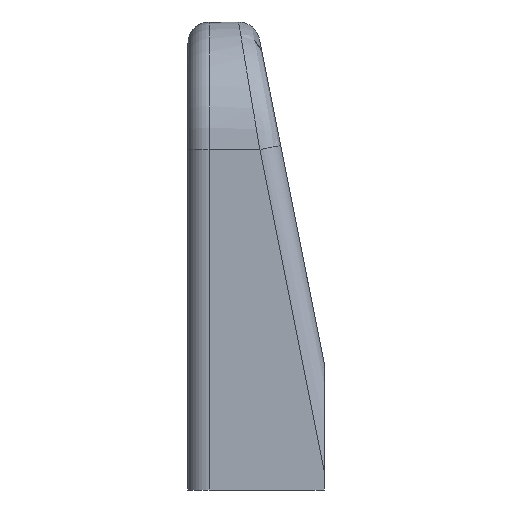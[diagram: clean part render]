
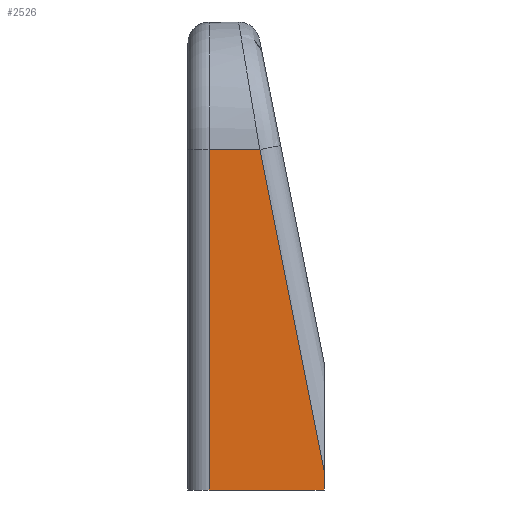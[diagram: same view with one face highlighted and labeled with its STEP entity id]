
A CAD part, left-side view. The second image highlights one B-rep face of the part: STEP entity #2526.
In plain terms, the highlighted planar face has unit normal (-1, 0, 0).
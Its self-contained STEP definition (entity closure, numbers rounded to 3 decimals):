
#71 = CARTESIAN_POINT ( 'NONE',  ( 102.39, -58.7, 0.9 ) ) ;
#216 = DIRECTION ( 'NONE',  ( 0., 0., -1. ) ) ;
#631 = EDGE_CURVE ( 'NONE', #8117, #2145, #1764, .T. ) ;
#1056 = VECTOR ( 'NONE', #4469, 1000. ) ;
#1301 = ORIENTED_EDGE ( 'NONE', *, *, #7477, .T. ) ;
#1309 = CARTESIAN_POINT ( 'NONE',  ( 102.39, -57.281, 7.996 ) ) ;
#1475 = ORIENTED_EDGE ( 'NONE', *, *, #6965, .T. ) ;
#1497 = CARTESIAN_POINT ( 'NONE',  ( 102.39, -53.301, 7. ) ) ;
#1663 = VERTEX_POINT ( 'NONE', #7326 ) ;
#1764 = LINE ( 'NONE', #1497, #7738 ) ;
#1909 = EDGE_LOOP ( 'NONE', ( #2332, #7198, #1475, #4963, #1301 ) ) ;
#1991 = DIRECTION ( 'NONE',  ( 0., 1., 0. ) ) ;
#2145 = VERTEX_POINT ( 'NONE', #6268 ) ;
#2179 = VECTOR ( 'NONE', #2828, 1000. ) ;
#2229 = VERTEX_POINT ( 'NONE', #71 ) ;
#2332 = ORIENTED_EDGE ( 'NONE', *, *, #7136, .F. ) ;
#2526 = ADVANCED_FACE ( 'NONE', ( #4308 ), #9066, .F. ) ;
#2794 = VECTOR ( 'NONE', #216, 1000. ) ;
#2828 = DIRECTION ( 'NONE',  ( 0., -1., 0. ) ) ;
#2902 = VECTOR ( 'NONE', #1991, 1000. ) ;
#3298 = VERTEX_POINT ( 'NONE', #4452 ) ;
#4115 = CARTESIAN_POINT ( 'NONE',  ( 102.39, -58.7, 7. ) ) ;
#4308 = FACE_OUTER_BOUND ( 'NONE', #1909, .T. ) ;
#4392 = DIRECTION ( 'NONE',  ( 1., 0., 0. ) ) ;
#4424 = DIRECTION ( 'NONE',  ( 0., 0., -1. ) ) ;
#4452 = CARTESIAN_POINT ( 'NONE',  ( 102.39, -58.7, 0. ) ) ;
#4469 = DIRECTION ( 'NONE',  ( 0., 0.196, 0.981 ) ) ;
#4881 = LINE ( 'NONE', #4115, #2794 ) ;
#4963 = ORIENTED_EDGE ( 'NONE', *, *, #631, .T. ) ;
#5460 = LINE ( 'NONE', #1309, #1056 ) ;
#5974 = AXIS2_PLACEMENT_3D ( 'NONE', #9034, #4392, #4424 ) ;
#6268 = CARTESIAN_POINT ( 'NONE',  ( 102.39, -53.301, 0. ) ) ;
#6965 = EDGE_CURVE ( 'NONE', #1663, #8117, #7313, .T. ) ;
#7136 = EDGE_CURVE ( 'NONE', #2229, #3298, #4881, .T. ) ;
#7198 = ORIENTED_EDGE ( 'NONE', *, *, #9655, .T. ) ;
#7313 = LINE ( 'NONE', #9694, #2902 ) ;
#7326 = CARTESIAN_POINT ( 'NONE',  ( 102.39, -55.68, 16. ) ) ;
#7477 = EDGE_CURVE ( 'NONE', #2145, #3298, #7648, .T. ) ;
#7648 = LINE ( 'NONE', #9051, #2179 ) ;
#7738 = VECTOR ( 'NONE', #9164, 1000. ) ;
#8117 = VERTEX_POINT ( 'NONE', #8269 ) ;
#8269 = CARTESIAN_POINT ( 'NONE',  ( 102.39, -53.301, 16. ) ) ;
#9034 = CARTESIAN_POINT ( 'NONE',  ( 102.39, -52.301, 7. ) ) ;
#9051 = CARTESIAN_POINT ( 'NONE',  ( 102.39, -52.301, 0. ) ) ;
#9066 = PLANE ( 'NONE',  #5974 ) ;
#9164 = DIRECTION ( 'NONE',  ( 0., 0., -1. ) ) ;
#9655 = EDGE_CURVE ( 'NONE', #2229, #1663, #5460, .T. ) ;
#9694 = CARTESIAN_POINT ( 'NONE',  ( 102.39, -52.301, 16. ) ) ;
